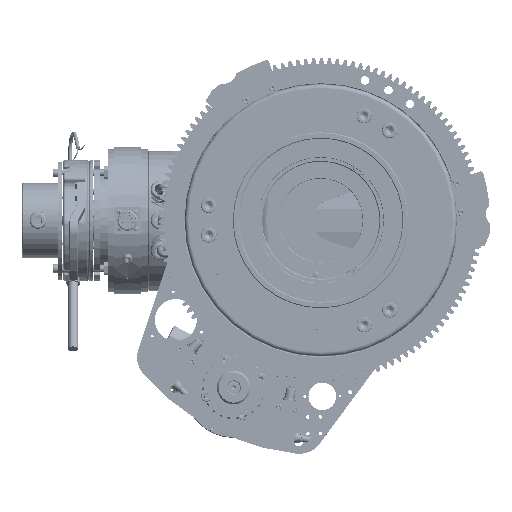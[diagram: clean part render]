
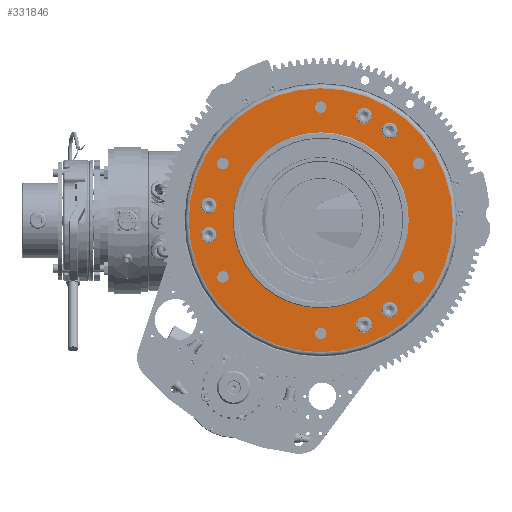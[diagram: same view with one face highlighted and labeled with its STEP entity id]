
A CAD part, top view. The second image highlights one B-rep face of the part: STEP entity #331846.
In plain terms, the highlighted planar face has unit normal (0, 0, 1).
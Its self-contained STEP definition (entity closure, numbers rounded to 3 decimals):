
#9185=PLANE('',#358508);
#19630=FACE_BOUND('',#48928,.T.);
#19631=FACE_BOUND('',#48929,.T.);
#19632=FACE_BOUND('',#48930,.T.);
#19633=FACE_BOUND('',#48931,.T.);
#19634=FACE_BOUND('',#48932,.T.);
#19635=FACE_BOUND('',#48933,.T.);
#19636=FACE_BOUND('',#48934,.T.);
#19637=FACE_BOUND('',#48935,.T.);
#19638=FACE_BOUND('',#48936,.T.);
#19639=FACE_BOUND('',#48937,.T.);
#19640=FACE_BOUND('',#48938,.T.);
#19641=FACE_BOUND('',#48939,.T.);
#19642=FACE_BOUND('',#48940,.T.);
#29961=FACE_OUTER_BOUND('',#48927,.T.);
#48927=EDGE_LOOP('',(#255952));
#48928=EDGE_LOOP('',(#255953));
#48929=EDGE_LOOP('',(#255954));
#48930=EDGE_LOOP('',(#255955));
#48931=EDGE_LOOP('',(#255956));
#48932=EDGE_LOOP('',(#255957));
#48933=EDGE_LOOP('',(#255958));
#48934=EDGE_LOOP('',(#255959));
#48935=EDGE_LOOP('',(#255960));
#48936=EDGE_LOOP('',(#255961));
#48937=EDGE_LOOP('',(#255962));
#48938=EDGE_LOOP('',(#255963));
#48939=EDGE_LOOP('',(#255964));
#48940=EDGE_LOOP('',(#255965));
#68116=CIRCLE('',#358509,157.5);
#68117=CIRCLE('',#358510,6.918);
#68118=CIRCLE('',#358511,6.918);
#68119=CIRCLE('',#358512,6.918);
#68120=CIRCLE('',#358513,6.918);
#68121=CIRCLE('',#358514,6.918);
#68122=CIRCLE('',#358515,6.918);
#68123=CIRCLE('',#358516,9.5);
#68124=CIRCLE('',#358517,9.5);
#68125=CIRCLE('',#358518,9.5);
#68126=CIRCLE('',#358519,9.5);
#68127=CIRCLE('',#358520,9.5);
#68128=CIRCLE('',#358521,9.5);
#68129=CIRCLE('',#358522,105.);
#148325=VERTEX_POINT('',#525790);
#148326=VERTEX_POINT('',#525792);
#148327=VERTEX_POINT('',#525794);
#148328=VERTEX_POINT('',#525796);
#148329=VERTEX_POINT('',#525798);
#148330=VERTEX_POINT('',#525800);
#148331=VERTEX_POINT('',#525802);
#148332=VERTEX_POINT('',#525804);
#148333=VERTEX_POINT('',#525806);
#148334=VERTEX_POINT('',#525808);
#148335=VERTEX_POINT('',#525810);
#148336=VERTEX_POINT('',#525812);
#148337=VERTEX_POINT('',#525814);
#148338=VERTEX_POINT('',#525816);
#187248=EDGE_CURVE('',#148325,#148325,#68116,.T.);
#187249=EDGE_CURVE('',#148326,#148326,#68117,.T.);
#187250=EDGE_CURVE('',#148327,#148327,#68118,.T.);
#187251=EDGE_CURVE('',#148328,#148328,#68119,.T.);
#187252=EDGE_CURVE('',#148329,#148329,#68120,.T.);
#187253=EDGE_CURVE('',#148330,#148330,#68121,.T.);
#187254=EDGE_CURVE('',#148331,#148331,#68122,.T.);
#187255=EDGE_CURVE('',#148332,#148332,#68123,.T.);
#187256=EDGE_CURVE('',#148333,#148333,#68124,.T.);
#187257=EDGE_CURVE('',#148334,#148334,#68125,.T.);
#187258=EDGE_CURVE('',#148335,#148335,#68126,.T.);
#187259=EDGE_CURVE('',#148336,#148336,#68127,.T.);
#187260=EDGE_CURVE('',#148337,#148337,#68128,.T.);
#187261=EDGE_CURVE('',#148338,#148338,#68129,.T.);
#255952=ORIENTED_EDGE('',*,*,#187248,.F.);
#255953=ORIENTED_EDGE('',*,*,#187249,.T.);
#255954=ORIENTED_EDGE('',*,*,#187250,.T.);
#255955=ORIENTED_EDGE('',*,*,#187251,.T.);
#255956=ORIENTED_EDGE('',*,*,#187252,.T.);
#255957=ORIENTED_EDGE('',*,*,#187253,.T.);
#255958=ORIENTED_EDGE('',*,*,#187254,.T.);
#255959=ORIENTED_EDGE('',*,*,#187255,.T.);
#255960=ORIENTED_EDGE('',*,*,#187256,.T.);
#255961=ORIENTED_EDGE('',*,*,#187257,.T.);
#255962=ORIENTED_EDGE('',*,*,#187258,.T.);
#255963=ORIENTED_EDGE('',*,*,#187259,.T.);
#255964=ORIENTED_EDGE('',*,*,#187260,.T.);
#255965=ORIENTED_EDGE('',*,*,#187261,.T.);
#331846=ADVANCED_FACE('',(#29961,#19630,#19631,#19632,#19633,#19634,#19635,
#19636,#19637,#19638,#19639,#19640,#19641,#19642),#9185,.T.);
#358508=AXIS2_PLACEMENT_3D('',#525789,#423522,#423523);
#358509=AXIS2_PLACEMENT_3D('',#525791,#423524,#423525);
#358510=AXIS2_PLACEMENT_3D('',#525793,#423526,#423527);
#358511=AXIS2_PLACEMENT_3D('',#525795,#423528,#423529);
#358512=AXIS2_PLACEMENT_3D('',#525797,#423530,#423531);
#358513=AXIS2_PLACEMENT_3D('',#525799,#423532,#423533);
#358514=AXIS2_PLACEMENT_3D('',#525801,#423534,#423535);
#358515=AXIS2_PLACEMENT_3D('',#525803,#423536,#423537);
#358516=AXIS2_PLACEMENT_3D('',#525805,#423538,#423539);
#358517=AXIS2_PLACEMENT_3D('',#525807,#423540,#423541);
#358518=AXIS2_PLACEMENT_3D('',#525809,#423542,#423543);
#358519=AXIS2_PLACEMENT_3D('',#525811,#423544,#423545);
#358520=AXIS2_PLACEMENT_3D('',#525813,#423546,#423547);
#358521=AXIS2_PLACEMENT_3D('',#525815,#423548,#423549);
#358522=AXIS2_PLACEMENT_3D('',#525817,#423550,#423551);
#423522=DIRECTION('center_axis',(0.,0.,
1.));
#423523=DIRECTION('ref_axis',(0.,-1.,0.));
#423524=DIRECTION('center_axis',(0.,0.,
-1.));
#423525=DIRECTION('ref_axis',(-1.,0.,0.));
#423526=DIRECTION('center_axis',(0.,0.,
-1.));
#423527=DIRECTION('ref_axis',(-0.5,0.866,0.));
#423528=DIRECTION('center_axis',(0.,0.,
-1.));
#423529=DIRECTION('ref_axis',(-1.,0.,0.));
#423530=DIRECTION('center_axis',(0.,0.,
-1.));
#423531=DIRECTION('ref_axis',(-0.5,-0.866,0.));
#423532=DIRECTION('center_axis',(0.,0.,
-1.));
#423533=DIRECTION('ref_axis',(0.5,-0.866,0.));
#423534=DIRECTION('center_axis',(0.,0.,
-1.));
#423535=DIRECTION('ref_axis',(0.5,0.866,0.));
#423536=DIRECTION('center_axis',(0.,0.,
-1.));
#423537=DIRECTION('ref_axis',(1.,0.,0.));
#423538=DIRECTION('center_axis',(0.,0.,
-1.));
#423539=DIRECTION('ref_axis',(-0.5,0.866,0.));
#423540=DIRECTION('center_axis',(0.,0.,
-1.));
#423541=DIRECTION('ref_axis',(-0.5,-0.866,0.));
#423542=DIRECTION('center_axis',(0.,0.,
-1.));
#423543=DIRECTION('ref_axis',(-0.5,-0.866,0.));
#423544=DIRECTION('center_axis',(0.,0.,
-1.));
#423545=DIRECTION('ref_axis',(-0.5,0.866,0.));
#423546=DIRECTION('center_axis',(0.,0.,
-1.));
#423547=DIRECTION('ref_axis',(1.,0.,0.));
#423548=DIRECTION('center_axis',(0.,0.,
-1.));
#423549=DIRECTION('ref_axis',(1.,0.,0.));
#423550=DIRECTION('center_axis',(0.,0.,
-1.));
#423551=DIRECTION('ref_axis',(1.,0.,0.));
#525789=CARTESIAN_POINT('Origin',(200.75,0.,248.5));
#525790=CARTESIAN_POINT('',(67.,-157.5,248.5));
#525791=CARTESIAN_POINT('Origin',(67.,0.,
248.5));
#525792=CARTESIAN_POINT('',(70.459,129.009,248.5));
#525793=CARTESIAN_POINT('Origin',(67.,135.,248.5));
#525794=CARTESIAN_POINT('',(-42.996,67.5,248.5));
#525795=CARTESIAN_POINT('Origin',(-49.913,67.5,248.5));
#525796=CARTESIAN_POINT('',(-46.455,-61.509,248.5));
#525797=CARTESIAN_POINT('Origin',(-49.913,-67.5,248.5));
#525798=CARTESIAN_POINT('',(63.541,-129.009,248.5));
#525799=CARTESIAN_POINT('Origin',(67.,-135.,248.5));
#525800=CARTESIAN_POINT('',(180.455,61.509,248.5));
#525801=CARTESIAN_POINT('Origin',(183.913,67.5,248.5));
#525802=CARTESIAN_POINT('',(176.996,-67.5,248.5));
#525803=CARTESIAN_POINT('Origin',(183.913,-67.5,248.5));
#525804=CARTESIAN_POINT('',(153.933,-115.33,248.5));
#525805=CARTESIAN_POINT('Origin',(149.183,-107.103,248.5));
#525806=CARTESIAN_POINT('',(123.412,132.951,248.5));
#525807=CARTESIAN_POINT('Origin',(118.662,124.724,248.5));
#525808=CARTESIAN_POINT('',(153.933,115.33,248.5));
#525809=CARTESIAN_POINT('Origin',(149.183,107.103,248.5));
#525810=CARTESIAN_POINT('',(123.412,-132.951,248.5));
#525811=CARTESIAN_POINT('Origin',(118.662,-124.724,248.5));
#525812=CARTESIAN_POINT('',(-76.345,-17.621,248.5));
#525813=CARTESIAN_POINT('Origin',(-66.845,-17.621,248.5));
#525814=CARTESIAN_POINT('',(-76.345,17.621,248.5));
#525815=CARTESIAN_POINT('Origin',(-66.845,17.621,248.5));
#525816=CARTESIAN_POINT('',(-38.,0.,248.5));
#525817=CARTESIAN_POINT('Origin',(67.,0.,
248.5));
